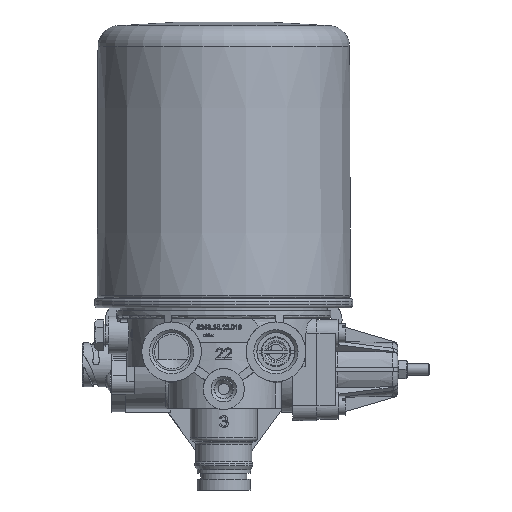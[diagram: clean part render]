
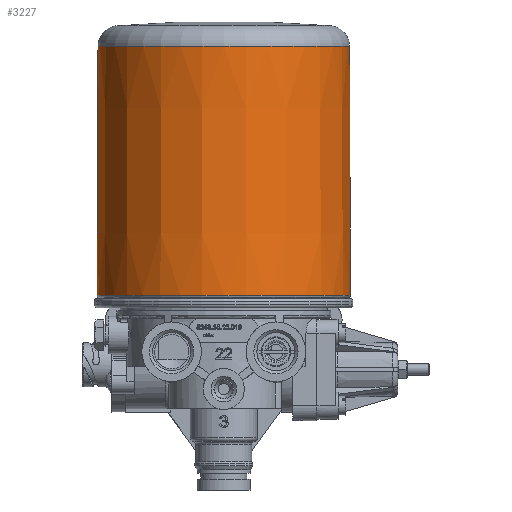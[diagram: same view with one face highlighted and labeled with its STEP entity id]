
A CAD part, front view. The second image highlights one B-rep face of the part: STEP entity #3227.
In plain terms, the highlighted conical face has half-angle 0.208 degrees and reference radius 68 mm.
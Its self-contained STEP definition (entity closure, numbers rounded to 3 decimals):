
#2216=CONICAL_SURFACE('',#25514,68.,0.208);
#3227=ADVANCED_FACE('',(#8287,#8288),#2216,.T.);
#8287=FACE_BOUND('',#9495,.T.);
#8288=FACE_BOUND('',#9496,.T.);
#9495=EDGE_LOOP('',(#13578));
#9496=EDGE_LOOP('',(#13579));
#13578=ORIENTED_EDGE('',*,*,#21445,.F.);
#13579=ORIENTED_EDGE('',*,*,#21446,.F.);
#18570=VERTEX_POINT('',#40631);
#18571=VERTEX_POINT('',#40633);
#21445=EDGE_CURVE('',#18570,#18570,#23784,.T.);
#21446=EDGE_CURVE('',#18571,#18571,#23785,.T.);
#23784=CIRCLE('',#25512,67.985);
#23785=CIRCLE('',#25513,67.5);
#25512=AXIS2_PLACEMENT_3D('',#40630,#29841,#29842);
#25513=AXIS2_PLACEMENT_3D('',#40632,#29843,#29844);
#25514=AXIS2_PLACEMENT_3D('',#40634,#29845,#29846);
#29841=DIRECTION('',(0.,0.,-1.));
#29842=DIRECTION('',(-1.,0.,0.));
#29843=DIRECTION('',(0.,0.,1.));
#29844=DIRECTION('',(1.,0.,0.));
#29845=DIRECTION('',(0.,0.,-1.));
#29846=DIRECTION('',(1.,0.,0.));
#40630=CARTESIAN_POINT('',(0.,0.,34.3));
#40631=CARTESIAN_POINT('',(-67.985,0.,34.3));
#40632=CARTESIAN_POINT('',(0.,0.,168.04));
#40633=CARTESIAN_POINT('',(67.5,0.,168.04));
#40634=CARTESIAN_POINT('',(0.,0.,30.296));
